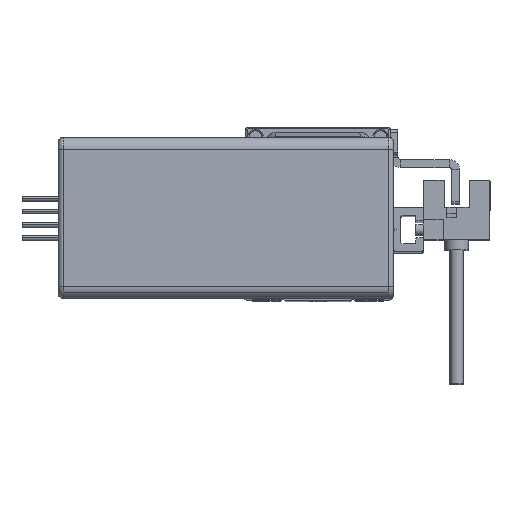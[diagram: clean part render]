
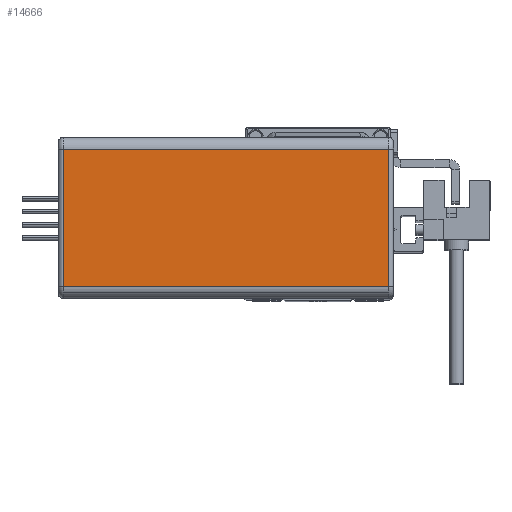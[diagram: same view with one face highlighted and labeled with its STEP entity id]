
A CAD part, top view. The second image highlights one B-rep face of the part: STEP entity #14666.
In plain terms, the highlighted planar face has unit normal (0, 0, 1) as drawn and (0, 0, -1) by its records, which use the part's own axes.
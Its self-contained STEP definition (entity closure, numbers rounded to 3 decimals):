
#5400 = CARTESIAN_POINT ( 'NONE',  ( -32.7, 13.8, -10. ) ) ;
#5401 = CARTESIAN_POINT ( 'NONE',  ( 32.7, 13.8, -10. ) ) ;
#5404 = CARTESIAN_POINT ( 'NONE',  ( -32.7, -13.8, -10. ) ) ;
#5508 = CARTESIAN_POINT ( 'NONE',  ( 32.7, -13.8, -10. ) ) ;
#11785 = EDGE_CURVE ( 'NONE', #21254, #21246, #31842, .T. ) ;
#11788 = EDGE_CURVE ( 'NONE', #21246, #21227, #31841, .T. ) ;
#11795 = EDGE_CURVE ( 'NONE', #21283, #21254, #31837, .T. ) ;
#11840 = EDGE_CURVE ( 'NONE', #21227, #21283, #31913, .T. ) ;
#14666 = ADVANCED_FACE ( 'NONE', ( #34244 ), #37649, .T. ) ;
#18564 = ORIENTED_EDGE ( 'NONE', *, *, #11785, .T. ) ;
#18570 = ORIENTED_EDGE ( 'NONE', *, *, #11795, .T. ) ;
#18578 = ORIENTED_EDGE ( 'NONE', *, *, #11840, .T. ) ;
#18593 = ORIENTED_EDGE ( 'NONE', *, *, #11788, .T. ) ;
#21227 = VERTEX_POINT ( 'NONE', #5401 ) ;
#21246 = VERTEX_POINT ( 'NONE', #5400 ) ;
#21254 = VERTEX_POINT ( 'NONE', #5404 ) ;
#21283 = VERTEX_POINT ( 'NONE', #5508 ) ;
#22786 = EDGE_LOOP ( 'NONE', ( #18570, #18564, #18593, #18578 ) ) ;
#28715 = AXIS2_PLACEMENT_3D ( 'NONE', #37618, #37664, #37636 ) ;
#31153 = DIRECTION ( 'NONE',  ( -1., 0., 0. ) ) ;
#31154 = CARTESIAN_POINT ( 'NONE',  ( -32.7, 13.8, -10. ) ) ;
#31155 = CARTESIAN_POINT ( 'NONE',  ( 33.7, 13.8, -10. ) ) ;
#31171 = DIRECTION ( 'NONE',  ( 1., 0., 0. ) ) ;
#31185 = CARTESIAN_POINT ( 'NONE',  ( -33.7, -13.8, -10. ) ) ;
#31190 = DIRECTION ( 'NONE',  ( 0., 1., 0. ) ) ;
#31275 = DIRECTION ( 'NONE',  ( 0., -1., 0. ) ) ;
#31309 = CARTESIAN_POINT ( 'NONE',  ( 32.7, -13.8, -10. ) ) ;
#31820 = VECTOR ( 'NONE', #31190, 1000. ) ;
#31837 = LINE ( 'NONE', #31185, #31850 ) ;
#31841 = LINE ( 'NONE', #31155, #31845 ) ;
#31842 = LINE ( 'NONE', #31154, #31820 ) ;
#31845 = VECTOR ( 'NONE', #31171, 1000. ) ;
#31850 = VECTOR ( 'NONE', #31153, 1000. ) ;
#31913 = LINE ( 'NONE', #31309, #31927 ) ;
#31927 = VECTOR ( 'NONE', #31275, 1000. ) ;
#34244 = FACE_OUTER_BOUND ( 'NONE', #22786, .T. ) ;
#37618 = CARTESIAN_POINT ( 'NONE',  ( 0., 0., -10. ) ) ;
#37636 = DIRECTION ( 'NONE',  ( -1., 0., 0. ) ) ;
#37649 = PLANE ( 'NONE',  #28715 ) ;
#37664 = DIRECTION ( 'NONE',  ( 0., 0., -1. ) ) ;
